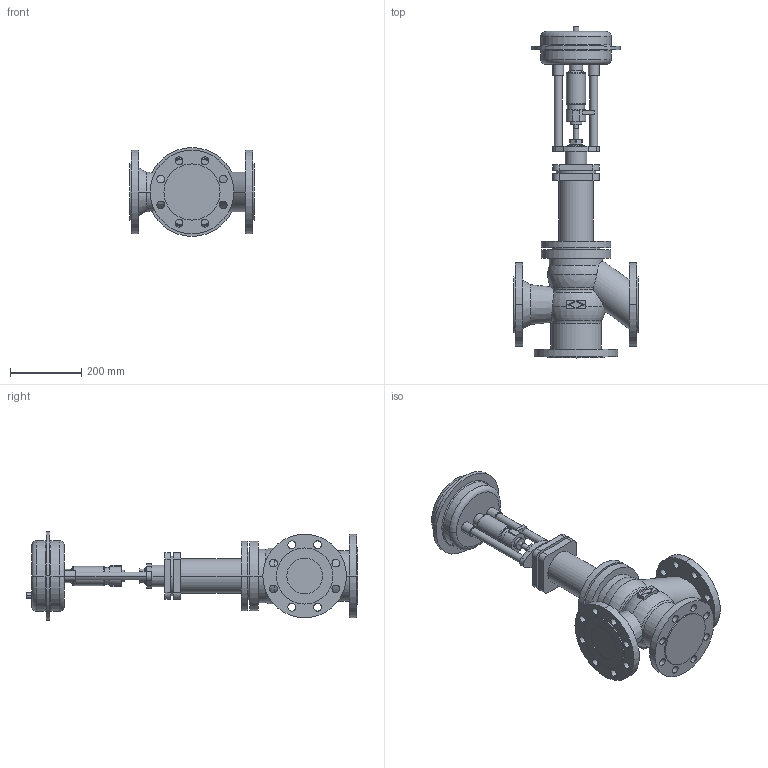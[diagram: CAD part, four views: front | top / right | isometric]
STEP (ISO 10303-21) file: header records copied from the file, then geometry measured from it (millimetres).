
FILE_DESCRIPTION(('OneSpaceDesigner STEP Export'),'2;1');
FILE_NAME('c000000726.stp','2006-09-20T11:15:29',(''),(''),'OneSpace Designer STEP processor for AP214 (Solid Model)','OneSpace Designer 13.20A 18-Aug-2005 (C) CoCreate Software GmbH','');
FILE_SCHEMA(('AUTOMOTIVE_DESIGN { 1 0 10303 214 1 1 1 1 }'));
Length unit declared in the file: millimetre
Products named in the file (2): 1; 2
Bounding box: 350 x 933.7 x 250 mm (x, y, z)
Volume: 16098738.6 mm3; surface area: 905649.8 mm2
Topology: 2 solids, 2 shells, 265 faces, 662 edges, 431 vertices
Faces by surface type: cylinder 134, plane 93, torus 26, cone 8, sphere 4
Entity records: 7173 total; most frequent: CARTESIAN_POINT 1360, ORIENTED_EDGE 1316, DIRECTION 1052, EDGE_CURVE 658, VERTEX_POINT 431, AXIS2_PLACEMENT_3D 387, EDGE_LOOP 347, VECTOR 278
